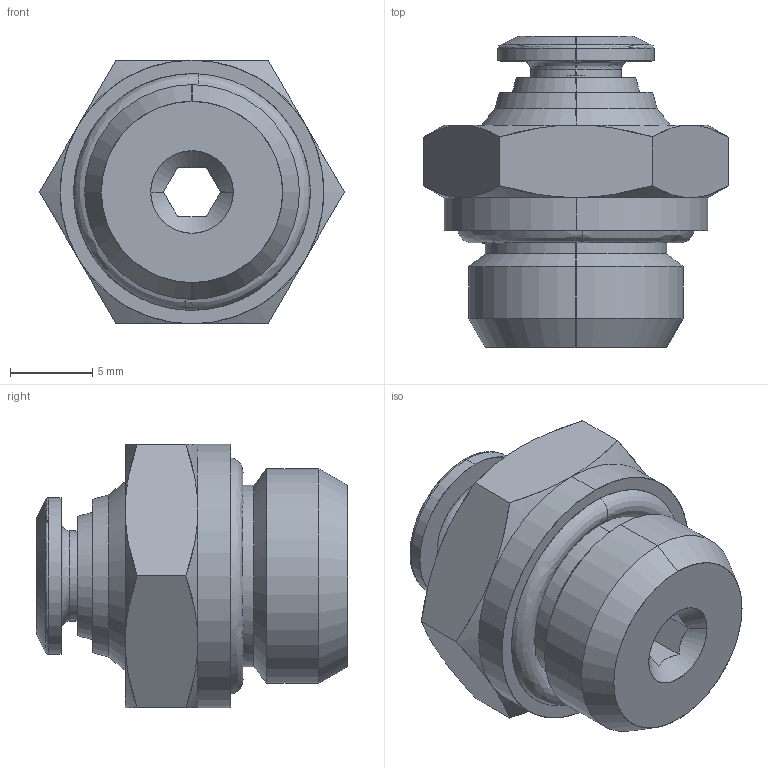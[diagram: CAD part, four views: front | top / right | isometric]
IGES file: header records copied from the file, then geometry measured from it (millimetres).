
Start section: SolidWorks IGES file using analytic representation for surfaces
Global section: file name: K:\Disegni Esecutivi\SERIE 40000\ASSIEMI\40020\IGES e STEP\40020V0022A.IGS; native system: SolidWorks 2020; preprocessor: SolidWorks 2020; author: CAD13; date: 241021.143449; units: millimetre
Bounding box: 18.48 x 18.9 x 16 mm (x, y, z)
Surface area: 1486.9 mm2 (no closed solid volume)
Topology: 0 solids, 0 shells, 76 faces, 984 edges, 984 vertices
Faces by surface type: revolution 45, bspline 31
